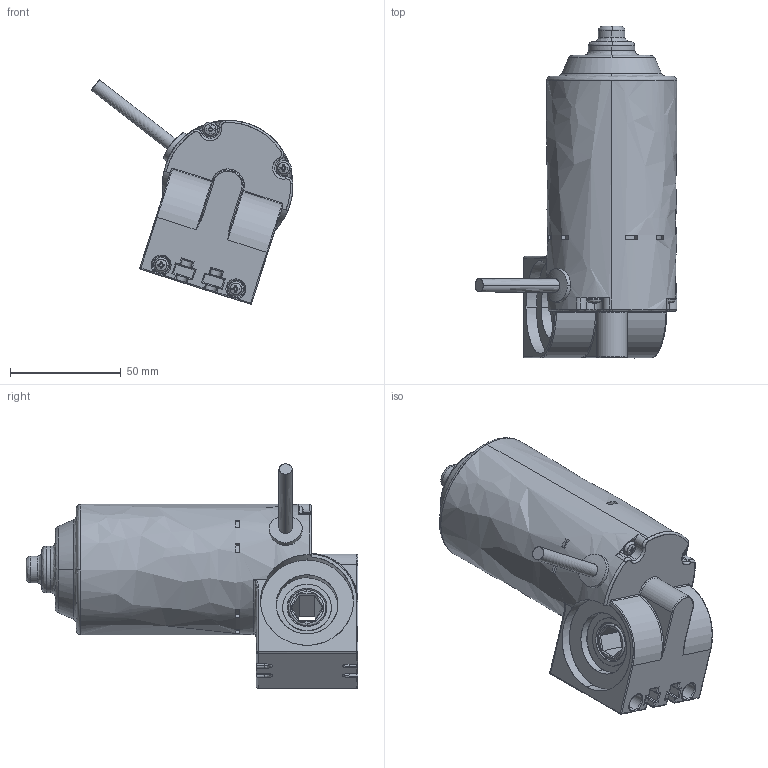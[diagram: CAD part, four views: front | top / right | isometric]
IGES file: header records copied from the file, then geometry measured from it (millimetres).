
Start section: SolidWorks IGES file using NURBS representation for surfaces
Global section: file name: C:\Users\lynn\Desktop\DKM3.IGS; native system: SolidWorks 2015; preprocessor: SolidWorks 2015; author: lynn; date: 191121.092847; units: millimetre
Bounding box: 91.24 x 150 x 101.46 mm (x, y, z)
Surface area: 86734.9 mm2 (no closed solid volume)
Topology: 0 solids, 0 shells, 1311 faces, 15133 edges, 15090 vertices
Faces by surface type: bspline 1311
